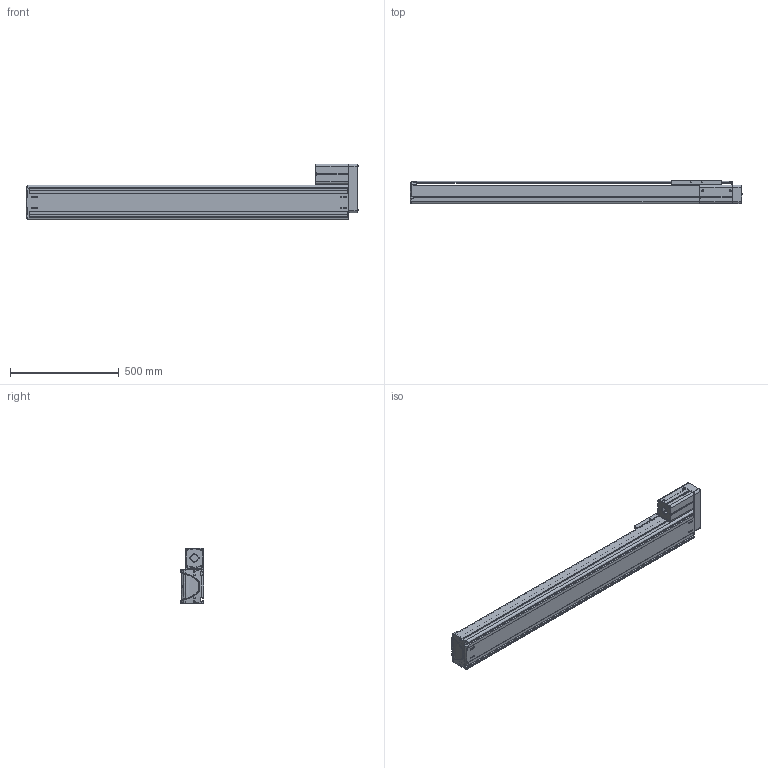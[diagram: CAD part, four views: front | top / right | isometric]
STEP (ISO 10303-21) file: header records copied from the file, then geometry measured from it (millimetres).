
FILE_DESCRIPTION((''),'2;1');
FILE_NAME('BE50F-UR-L_N-B5_IGS_PRT','2017-06-18T',(' '),(''),'PRO/ENGINEER BY PARAMETRIC TECHNOLOGY CORPORATION, 2015030','PRO/ENGINEER BY PARAMETRIC TECHNOLOGY CORPORATION, 2015030','');
FILE_SCHEMA(('CONFIG_CONTROL_DESIGN'));
Length unit declared in the file: millimetre
Products named in the file (1): BE50F-UR-L_N-B5_IGS_PRT
Bounding box: 1525.88 x 110 x 257 mm (x, y, z)
Volume: 6206234.3 mm3; surface area: 2543032.2 mm2
Topology: 6 solids, 154 shells, 2320 faces, 6368 edges, 4168 vertices
Faces by surface type: cylinder 1020, plane 1016, cone 145, torus 59, bspline 48, sphere 32
Entity records: 77385 total; most frequent: CARTESIAN_POINT 17911, DIRECTION 12389, ORIENTED_EDGE 12104, EDGE_CURVE 6320, AXIS2_PLACEMENT_3D 4437, VERTEX_POINT 4163, VECTOR 3515, LINE 3515
